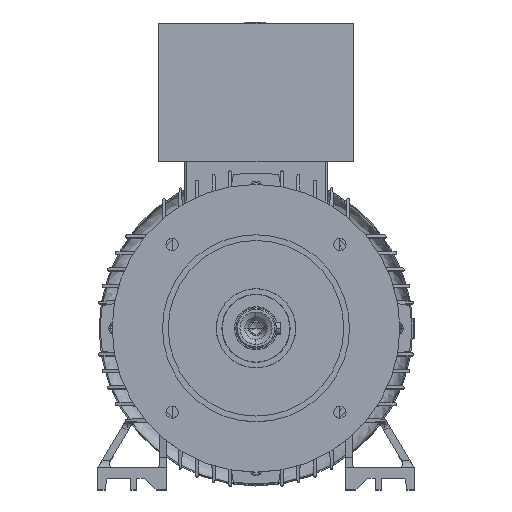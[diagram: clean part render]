
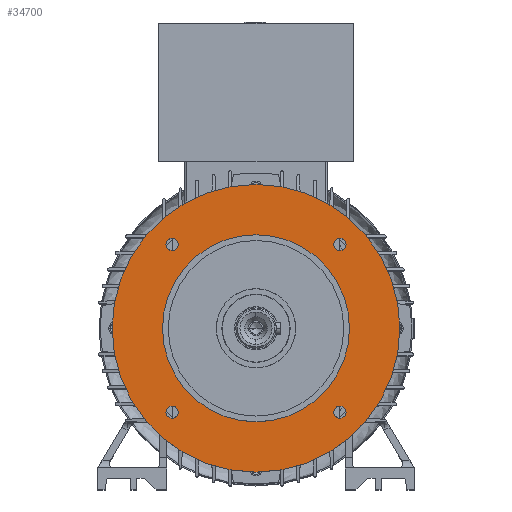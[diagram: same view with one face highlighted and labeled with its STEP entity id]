
A CAD part, top view. The second image highlights one B-rep face of the part: STEP entity #34700.
In plain terms, the highlighted planar face has unit normal (0, 0, 1).
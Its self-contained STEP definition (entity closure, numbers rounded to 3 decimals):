
#138 = VERTEX_POINT ( 'NONE', #25599 ) ;
#217 = FACE_BOUND ( 'NONE', #2845, .T. ) ;
#290 = CARTESIAN_POINT ( 'NONE',  ( -58.336, 58.336, 140. ) ) ;
#644 = EDGE_LOOP ( 'NONE', ( #18256, #6154 ) ) ;
#713 = CARTESIAN_POINT ( 'NONE',  ( 65., 0., 140. ) ) ;
#1065 = DIRECTION ( 'NONE',  ( 1., 0., 0. ) ) ;
#1516 = CIRCLE ( 'NONE', #3881, 65. ) ;
#1529 = AXIS2_PLACEMENT_3D ( 'NONE', #2806, #2557, #5926 ) ;
#2218 = AXIS2_PLACEMENT_3D ( 'NONE', #21436, #13088, #36389 ) ;
#2557 = DIRECTION ( 'NONE',  ( 0., 0., 1. ) ) ;
#2685 = DIRECTION ( 'NONE',  ( 0., 0., -1. ) ) ;
#2806 = CARTESIAN_POINT ( 'NONE',  ( 58.336, 58.336, 140. ) ) ;
#2845 = EDGE_LOOP ( 'NONE', ( #5274, #27935 ) ) ;
#2906 = CIRCLE ( 'NONE', #28896, 100. ) ;
#3186 = CARTESIAN_POINT ( 'NONE',  ( -54.086, -58.336, 140. ) ) ;
#3881 = AXIS2_PLACEMENT_3D ( 'NONE', #19757, #22935, #37523 ) ;
#3976 = AXIS2_PLACEMENT_3D ( 'NONE', #27560, #13058, #4061 ) ;
#4054 = ORIENTED_EDGE ( 'NONE', *, *, #10286, .F. ) ;
#4061 = DIRECTION ( 'NONE',  ( -1., 0., 0. ) ) ;
#4188 = PLANE ( 'NONE',  #3976 ) ;
#4472 = CIRCLE ( 'NONE', #2218, 4.25 ) ;
#4560 = CIRCLE ( 'NONE', #1529, 4.25 ) ;
#4715 = VERTEX_POINT ( 'NONE', #34725 ) ;
#5244 = CARTESIAN_POINT ( 'NONE',  ( 54.086, -58.336, 140. ) ) ;
#5274 = ORIENTED_EDGE ( 'NONE', *, *, #27856, .F. ) ;
#5496 = ORIENTED_EDGE ( 'NONE', *, *, #9710, .F. ) ;
#5562 = ORIENTED_EDGE ( 'NONE', *, *, #8164, .F. ) ;
#5757 = CIRCLE ( 'NONE', #29250, 4.25 ) ;
#5772 = FACE_OUTER_BOUND ( 'NONE', #14489, .T. ) ;
#5926 = DIRECTION ( 'NONE',  ( 1., 0., 0. ) ) ;
#5964 = DIRECTION ( 'NONE',  ( 0., 0., 1. ) ) ;
#6154 = ORIENTED_EDGE ( 'NONE', *, *, #14251, .F. ) ;
#6245 = DIRECTION ( 'NONE',  ( 0., 0., 1. ) ) ;
#6650 = VERTEX_POINT ( 'NONE', #713 ) ;
#6809 = VERTEX_POINT ( 'NONE', #7019 ) ;
#7003 = CIRCLE ( 'NONE', #12793, 4.25 ) ;
#7005 = CARTESIAN_POINT ( 'NONE',  ( 0., 0., 140. ) ) ;
#7019 = CARTESIAN_POINT ( 'NONE',  ( 100., 0., 140. ) ) ;
#7483 = VERTEX_POINT ( 'NONE', #28481 ) ;
#8164 = EDGE_CURVE ( 'NONE', #6809, #138, #30609, .T. ) ;
#9626 = CARTESIAN_POINT ( 'NONE',  ( -65., 0., 140. ) ) ;
#9710 = EDGE_CURVE ( 'NONE', #36572, #11652, #5757, .T. ) ;
#10286 = EDGE_CURVE ( 'NONE', #11652, #36572, #23140, .T. ) ;
#10321 = DIRECTION ( 'NONE',  ( 0., 0., 1. ) ) ;
#11534 = CARTESIAN_POINT ( 'NONE',  ( -58.336, -58.336, 140. ) ) ;
#11652 = VERTEX_POINT ( 'NONE', #5244 ) ;
#11660 = ORIENTED_EDGE ( 'NONE', *, *, #21594, .F. ) ;
#11663 = DIRECTION ( 'NONE',  ( 0., 0., 1. ) ) ;
#11996 = CIRCLE ( 'NONE', #16335, 4.25 ) ;
#12529 = CIRCLE ( 'NONE', #21219, 65. ) ;
#12783 = EDGE_LOOP ( 'NONE', ( #5496, #4054 ) ) ;
#12793 = AXIS2_PLACEMENT_3D ( 'NONE', #30310, #27527, #21616 ) ;
#13058 = DIRECTION ( 'NONE',  ( 0., 0., -1. ) ) ;
#13088 = DIRECTION ( 'NONE',  ( 0., 0., 1. ) ) ;
#13453 = DIRECTION ( 'NONE',  ( 0., 0., 1. ) ) ;
#13561 = DIRECTION ( 'NONE',  ( 0., 0., 1. ) ) ;
#13582 = FACE_BOUND ( 'NONE', #644, .T. ) ;
#13816 = AXIS2_PLACEMENT_3D ( 'NONE', #22541, #13453, #19116 ) ;
#14032 = FACE_BOUND ( 'NONE', #31319, .T. ) ;
#14251 = EDGE_CURVE ( 'NONE', #27993, #6650, #1516, .T. ) ;
#14291 = DIRECTION ( 'NONE',  ( 1., 0., 0. ) ) ;
#14489 = EDGE_LOOP ( 'NONE', ( #5562, #36891 ) ) ;
#14539 = EDGE_CURVE ( 'NONE', #23798, #7483, #7003, .T. ) ;
#14670 = CARTESIAN_POINT ( 'NONE',  ( 0., 0., 140. ) ) ;
#14723 = AXIS2_PLACEMENT_3D ( 'NONE', #35447, #29701, #32882 ) ;
#16335 = AXIS2_PLACEMENT_3D ( 'NONE', #34305, #13561, #16805 ) ;
#16805 = DIRECTION ( 'NONE',  ( 1., 0., 0. ) ) ;
#18060 = DIRECTION ( 'NONE',  ( 1., 0., 0. ) ) ;
#18256 = ORIENTED_EDGE ( 'NONE', *, *, #26812, .F. ) ;
#19116 = DIRECTION ( 'NONE',  ( 1., 0., 0. ) ) ;
#19456 = CARTESIAN_POINT ( 'NONE',  ( 58.336, -58.336, 140. ) ) ;
#19757 = CARTESIAN_POINT ( 'NONE',  ( 0., 0., 140. ) ) ;
#20932 = FACE_BOUND ( 'NONE', #12783, .T. ) ;
#21219 = AXIS2_PLACEMENT_3D ( 'NONE', #7005, #6245, #1065 ) ;
#21390 = CIRCLE ( 'NONE', #33405, 4.25 ) ;
#21436 = CARTESIAN_POINT ( 'NONE',  ( 58.336, 58.336, 140. ) ) ;
#21594 = EDGE_CURVE ( 'NONE', #7483, #23798, #34733, .T. ) ;
#21616 = DIRECTION ( 'NONE',  ( 1., 0., 0. ) ) ;
#22541 = CARTESIAN_POINT ( 'NONE',  ( 58.336, -58.336, 140. ) ) ;
#22935 = DIRECTION ( 'NONE',  ( 0., 0., 1. ) ) ;
#23140 = CIRCLE ( 'NONE', #13816, 4.25 ) ;
#23798 = VERTEX_POINT ( 'NONE', #3186 ) ;
#25078 = DIRECTION ( 'NONE',  ( 1., 0., 0. ) ) ;
#25599 = CARTESIAN_POINT ( 'NONE',  ( -100., 0., 140. ) ) ;
#26077 = EDGE_CURVE ( 'NONE', #4715, #29616, #21390, .T. ) ;
#26812 = EDGE_CURVE ( 'NONE', #6650, #27993, #12529, .T. ) ;
#26821 = VERTEX_POINT ( 'NONE', #31633 ) ;
#27256 = EDGE_CURVE ( 'NONE', #29616, #4715, #11996, .T. ) ;
#27527 = DIRECTION ( 'NONE',  ( 0., 0., 1. ) ) ;
#27560 = CARTESIAN_POINT ( 'NONE',  ( 0., 100., 140. ) ) ;
#27856 = EDGE_CURVE ( 'NONE', #26821, #36892, #4560, .T. ) ;
#27935 = ORIENTED_EDGE ( 'NONE', *, *, #34181, .F. ) ;
#27993 = VERTEX_POINT ( 'NONE', #9626 ) ;
#28481 = CARTESIAN_POINT ( 'NONE',  ( -62.586, -58.336, 140. ) ) ;
#28718 = FACE_BOUND ( 'NONE', #32869, .T. ) ;
#28750 = CARTESIAN_POINT ( 'NONE',  ( -62.586, 58.336, 140. ) ) ;
#28896 = AXIS2_PLACEMENT_3D ( 'NONE', #14670, #2685, #14291 ) ;
#29123 = ORIENTED_EDGE ( 'NONE', *, *, #26077, .F. ) ;
#29250 = AXIS2_PLACEMENT_3D ( 'NONE', #19456, #10321, #25078 ) ;
#29616 = VERTEX_POINT ( 'NONE', #28750 ) ;
#29701 = DIRECTION ( 'NONE',  ( 0., 0., -1. ) ) ;
#30310 = CARTESIAN_POINT ( 'NONE',  ( -58.336, -58.336, 140. ) ) ;
#30391 = CARTESIAN_POINT ( 'NONE',  ( 54.086, 58.336, 140. ) ) ;
#30609 = CIRCLE ( 'NONE', #14723, 100. ) ;
#31319 = EDGE_LOOP ( 'NONE', ( #29123, #34650 ) ) ;
#31633 = CARTESIAN_POINT ( 'NONE',  ( 62.586, 58.336, 140. ) ) ;
#32008 = DIRECTION ( 'NONE',  ( 1., 0., 0. ) ) ;
#32190 = AXIS2_PLACEMENT_3D ( 'NONE', #11534, #11663, #32008 ) ;
#32869 = EDGE_LOOP ( 'NONE', ( #37300, #11660 ) ) ;
#32882 = DIRECTION ( 'NONE',  ( 1., 0., 0. ) ) ;
#33405 = AXIS2_PLACEMENT_3D ( 'NONE', #290, #5964, #18060 ) ;
#34181 = EDGE_CURVE ( 'NONE', #36892, #26821, #4472, .T. ) ;
#34305 = CARTESIAN_POINT ( 'NONE',  ( -58.336, 58.336, 140. ) ) ;
#34650 = ORIENTED_EDGE ( 'NONE', *, *, #27256, .F. ) ;
#34700 = ADVANCED_FACE ( 'NONE', ( #5772, #13582, #217, #14032, #28718, #20932 ), #4188, .F. ) ;
#34725 = CARTESIAN_POINT ( 'NONE',  ( -54.086, 58.336, 140. ) ) ;
#34733 = CIRCLE ( 'NONE', #32190, 4.25 ) ;
#35447 = CARTESIAN_POINT ( 'NONE',  ( 0., 0., 140. ) ) ;
#35557 = EDGE_CURVE ( 'NONE', #138, #6809, #2906, .T. ) ;
#36389 = DIRECTION ( 'NONE',  ( 1., 0., 0. ) ) ;
#36572 = VERTEX_POINT ( 'NONE', #36958 ) ;
#36891 = ORIENTED_EDGE ( 'NONE', *, *, #35557, .F. ) ;
#36892 = VERTEX_POINT ( 'NONE', #30391 ) ;
#36958 = CARTESIAN_POINT ( 'NONE',  ( 62.586, -58.336, 140. ) ) ;
#37300 = ORIENTED_EDGE ( 'NONE', *, *, #14539, .F. ) ;
#37523 = DIRECTION ( 'NONE',  ( 1., 0., 0. ) ) ;
